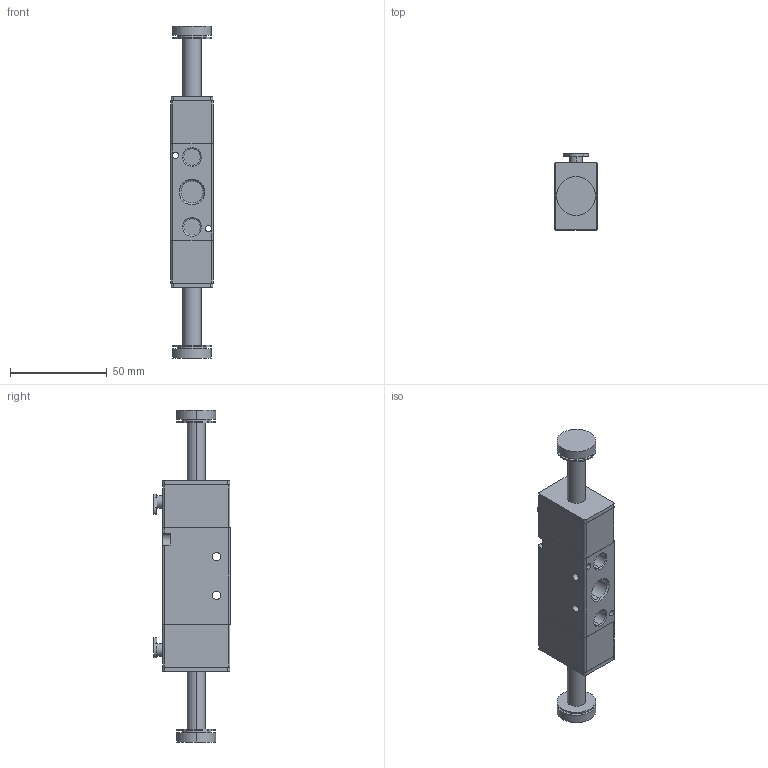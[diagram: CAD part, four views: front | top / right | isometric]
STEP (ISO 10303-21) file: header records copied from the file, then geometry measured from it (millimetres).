
FILE_DESCRIPTION (( 'STEP AP203' ), '1' );
FILE_NAME ('RV5222-08-WX.STEP', '2025-01-20T06:05:14', ( 'E.mc' ), ( 'E.mc' ), 'SwSTEP 2.0', 'SolidWorks 2017', '' );
FILE_SCHEMA (( 'CONFIG_CONTROL_DESIGN' ));
Length unit declared in the file: millimetre
Products named in the file (1): RV5222-08-WX
Bounding box: 22 x 39.4 x 171.4 mm (x, y, z)
Volume: 77729.1 mm3; surface area: 19743.4 mm2
Topology: 1 solids, 1 shells, 131 faces, 320 edges, 210 vertices
Faces by surface type: cylinder 68, plane 53, cone 10
Entity records: 4001 total; most frequent: DIRECTION 730, CARTESIAN_POINT 672, ORIENTED_EDGE 640, EDGE_CURVE 320, AXIS2_PLACEMENT_3D 280, VERTEX_POINT 210, LINE 170, VECTOR 170
